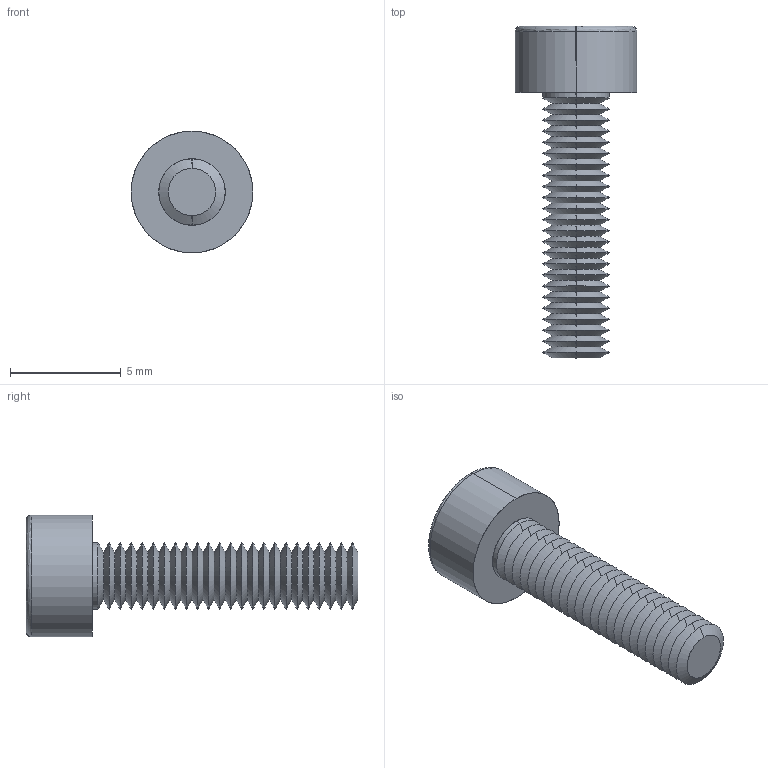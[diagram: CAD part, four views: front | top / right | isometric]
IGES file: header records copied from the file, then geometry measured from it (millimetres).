
Start section: SolidWorks IGES file using analytic representation for surfaces
Global section: file name: C:\Users\ianosborn\Desktop\N0007.91N_v2\N0007.91N_v2_20250519_IGES\91N.030.0120.igs; native system: SolidWorks 2019; preprocessor: SolidWorks 2019; author: IanOsborn; date: 250520.095001; units: millimetre
Bounding box: 5.5 x 15 x 5.5 mm (x, y, z)
Surface area: 308 mm2 (no closed solid volume)
Topology: 0 solids, 0 shells, 124 faces, 681 edges, 679 vertices
Faces by surface type: revolution 107, bspline 17
